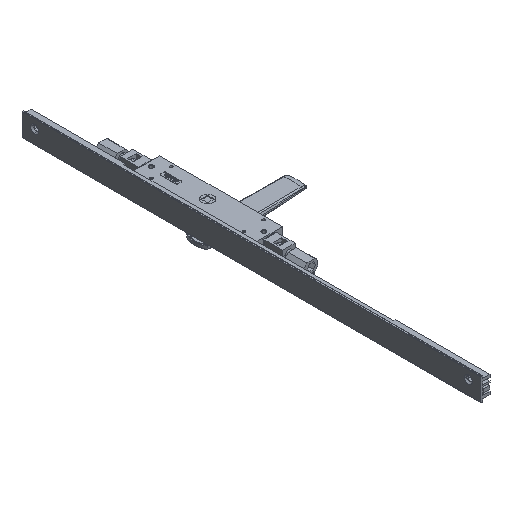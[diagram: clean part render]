
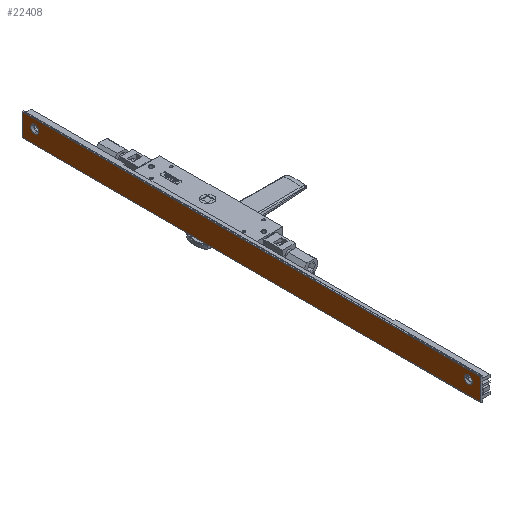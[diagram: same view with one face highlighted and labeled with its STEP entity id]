
A CAD part, isometric view. The second image highlights one B-rep face of the part: STEP entity #22408.
In plain terms, the highlighted planar face has unit normal (-1, 0, 0) as drawn and (0, 1, 0) by its records, which use the part's own axes.
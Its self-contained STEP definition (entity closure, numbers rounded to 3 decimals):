
#483 = ORIENTED_EDGE ( 'NONE', *, *, #1770, .F. ) ;
#581 = EDGE_CURVE ( 'NONE', #23956, #30628, #25902, .T. ) ;
#951 = DIRECTION ( 'NONE',  ( 0., 0., 1. ) ) ;
#1040 = VECTOR ( 'NONE', #10180, 1000. ) ;
#1770 = EDGE_CURVE ( 'NONE', #19092, #13148, #20425, .T. ) ;
#1854 = ORIENTED_EDGE ( 'NONE', *, *, #13010, .F. ) ;
#1901 = CIRCLE ( 'NONE', #14531, 4.889 ) ;
#2009 = CIRCLE ( 'NONE', #23707, 4.889 ) ;
#2533 = EDGE_LOOP ( 'NONE', ( #11077, #1854 ) ) ;
#2962 = LINE ( 'NONE', #17333, #20012 ) ;
#3801 = VECTOR ( 'NONE', #20984, 1000. ) ;
#3869 = FACE_BOUND ( 'NONE', #2533, .T. ) ;
#4972 = LINE ( 'NONE', #10028, #1040 ) ;
#5714 = CARTESIAN_POINT ( 'NONE',  ( 11.8, 12.4, 529. ) ) ;
#5792 = DIRECTION ( 'NONE',  ( 1., 0., 0. ) ) ;
#5933 = FACE_OUTER_BOUND ( 'NONE', #12023, .T. ) ;
#6212 = CARTESIAN_POINT ( 'NONE',  ( 11.8, 12.4, 529. ) ) ;
#8431 = ORIENTED_EDGE ( 'NONE', *, *, #12765, .F. ) ;
#9745 = DIRECTION ( 'NONE',  ( 0., 1., 0. ) ) ;
#10028 = CARTESIAN_POINT ( 'NONE',  ( -4.4, 12.4, 544. ) ) ;
#10072 = EDGE_CURVE ( 'NONE', #25156, #12504, #19397, .T. ) ;
#10180 = DIRECTION ( 'NONE',  ( 0., 0., -1. ) ) ;
#10521 = DIRECTION ( 'NONE',  ( 0., 1., 0. ) ) ;
#10806 = DIRECTION ( 'NONE',  ( 0., 0., 1. ) ) ;
#10999 = DIRECTION ( 'NONE',  ( -1., 0., 0. ) ) ;
#11077 = ORIENTED_EDGE ( 'NONE', *, *, #10072, .F. ) ;
#11433 = ORIENTED_EDGE ( 'NONE', *, *, #16350, .F. ) ;
#12023 = EDGE_LOOP ( 'NONE', ( #29780, #11433, #19244, #8431 ) ) ;
#12283 = DIRECTION ( 'NONE',  ( -1., 0., 0. ) ) ;
#12504 = VERTEX_POINT ( 'NONE', #27464 ) ;
#12549 = DIRECTION ( 'NONE',  ( -1., 0., 0. ) ) ;
#12765 = EDGE_CURVE ( 'NONE', #25619, #23956, #2962, .T. ) ;
#13010 = EDGE_CURVE ( 'NONE', #12504, #25156, #1901, .T. ) ;
#13148 = VERTEX_POINT ( 'NONE', #22039 ) ;
#13548 = DIRECTION ( 'NONE',  ( 0., -1., 0. ) ) ;
#14531 = AXIS2_PLACEMENT_3D ( 'NONE', #30920, #9745, #12283 ) ;
#14585 = VECTOR ( 'NONE', #12549, 1000. ) ;
#15092 = EDGE_CURVE ( 'NONE', #13148, #19092, #2009, .T. ) ;
#15848 = DIRECTION ( 'NONE',  ( 0., 1., 0. ) ) ;
#15883 = FACE_BOUND ( 'NONE', #27489, .T. ) ;
#16350 = EDGE_CURVE ( 'NONE', #30628, #25694, #21988, .T. ) ;
#16533 = CARTESIAN_POINT ( 'NONE',  ( 22., 12.4, 0. ) ) ;
#17333 = CARTESIAN_POINT ( 'NONE',  ( 20.8, 12.4, 0. ) ) ;
#18388 = PLANE ( 'NONE',  #18553 ) ;
#18553 = AXIS2_PLACEMENT_3D ( 'NONE', #20437, #13548, #30431 ) ;
#19092 = VERTEX_POINT ( 'NONE', #29558 ) ;
#19244 = ORIENTED_EDGE ( 'NONE', *, *, #581, .F. ) ;
#19397 = CIRCLE ( 'NONE', #30020, 4.889 ) ;
#20012 = VECTOR ( 'NONE', #5792, 1000. ) ;
#20425 = CIRCLE ( 'NONE', #26495, 4.889 ) ;
#20437 = CARTESIAN_POINT ( 'NONE',  ( 20.8, 12.4, 544. ) ) ;
#20984 = DIRECTION ( 'NONE',  ( 0., 0., 1. ) ) ;
#21730 = ORIENTED_EDGE ( 'NONE', *, *, #15092, .F. ) ;
#21988 = LINE ( 'NONE', #24677, #14585 ) ;
#22039 = CARTESIAN_POINT ( 'NONE',  ( 11.8, 12.4, 533.889 ) ) ;
#22165 = CARTESIAN_POINT ( 'NONE',  ( -4.4, 12.4, 0. ) ) ;
#22408 = ADVANCED_FACE ( 'NONE', ( #5933, #15883, #3869 ), #18388, .F. ) ;
#22509 = CARTESIAN_POINT ( 'NONE',  ( 11.8, 12.4, 15. ) ) ;
#22608 = DIRECTION ( 'NONE',  ( 0., 1., 0. ) ) ;
#23707 = AXIS2_PLACEMENT_3D ( 'NONE', #6212, #15848, #10806 ) ;
#23956 = VERTEX_POINT ( 'NONE', #16533 ) ;
#24677 = CARTESIAN_POINT ( 'NONE',  ( 20.8, 12.4, 544. ) ) ;
#24841 = CARTESIAN_POINT ( 'NONE',  ( -4.4, 12.4, 544. ) ) ;
#25156 = VERTEX_POINT ( 'NONE', #27254 ) ;
#25619 = VERTEX_POINT ( 'NONE', #22165 ) ;
#25694 = VERTEX_POINT ( 'NONE', #24841 ) ;
#25744 = CARTESIAN_POINT ( 'NONE',  ( 22., 12.4, 544. ) ) ;
#25902 = LINE ( 'NONE', #30960, #3801 ) ;
#26495 = AXIS2_PLACEMENT_3D ( 'NONE', #5714, #22608, #951 ) ;
#27254 = CARTESIAN_POINT ( 'NONE',  ( 6.911, 12.4, 15. ) ) ;
#27464 = CARTESIAN_POINT ( 'NONE',  ( 16.689, 12.4, 15. ) ) ;
#27489 = EDGE_LOOP ( 'NONE', ( #21730, #483 ) ) ;
#28977 = EDGE_CURVE ( 'NONE', #25694, #25619, #4972, .T. ) ;
#29558 = CARTESIAN_POINT ( 'NONE',  ( 11.8, 12.4, 524.111 ) ) ;
#29780 = ORIENTED_EDGE ( 'NONE', *, *, #28977, .F. ) ;
#30020 = AXIS2_PLACEMENT_3D ( 'NONE', #22509, #10521, #10999 ) ;
#30431 = DIRECTION ( 'NONE',  ( 1., 0., 0. ) ) ;
#30628 = VERTEX_POINT ( 'NONE', #25744 ) ;
#30920 = CARTESIAN_POINT ( 'NONE',  ( 11.8, 12.4, 15. ) ) ;
#30960 = CARTESIAN_POINT ( 'NONE',  ( 22., 12.4, 544. ) ) ;
